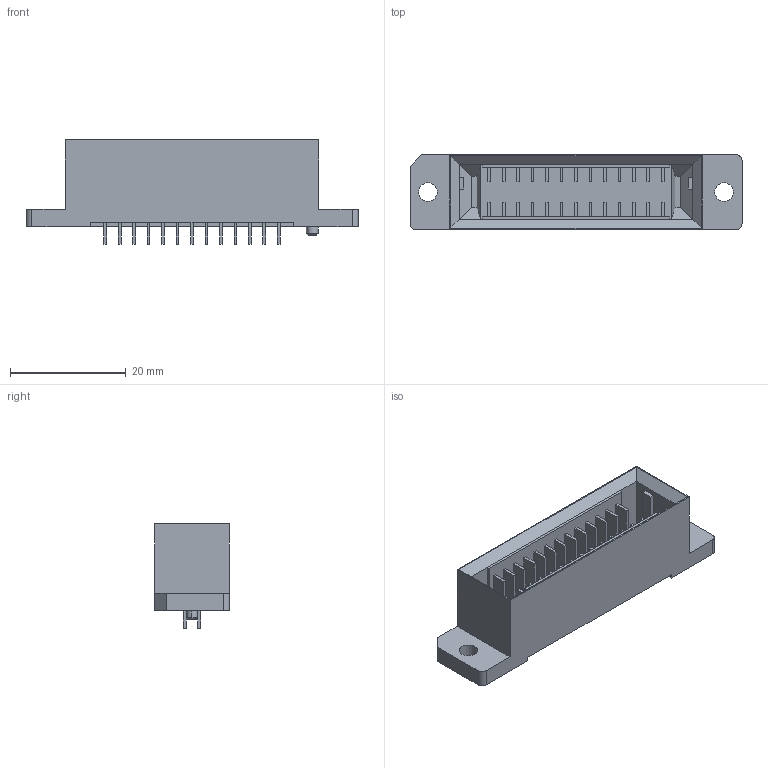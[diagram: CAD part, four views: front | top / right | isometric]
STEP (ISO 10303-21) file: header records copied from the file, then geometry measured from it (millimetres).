
FILE_DESCRIPTION(('CoCreate Modeling STEP Export'),'2;1');
FILE_NAME('P3A946_FA11-026.stp','2017-07-27T15:54:48',(''),(''),'CoCreate Modeling STEP processor for AP214 (Solid Model)','CoCreate Modeling 17.0B 09-Oct-2010 (C) Parametric Technology GmbH','');
FILE_SCHEMA(('AUTOMOTIVE_DESIGN { 1 0 10303 214 1 1 1 1 }'));
Length unit declared in the file: millimetre
Products named in the file (2): FA11-026
Assembly tree (1 placements, depth 2):
  FA11-026
    FA11-026
Bounding box: 57.3 x 12.9 x 18 mm (x, y, z)
Volume: 4652.4 mm3; surface area: 5728.5 mm2
Topology: 1 solids, 1 shells, 302 faces, 799 edges, 527 vertices
Faces by surface type: plane 291, cylinder 9, cone 2
Entity records: 9101 total; most frequent: CARTESIAN_POINT 1608, ORIENTED_EDGE 1598, DIRECTION 1394, EDGE_CURVE 799, VECTOR 768, LINE 768, VERTEX_POINT 527, EDGE_LOOP 334
